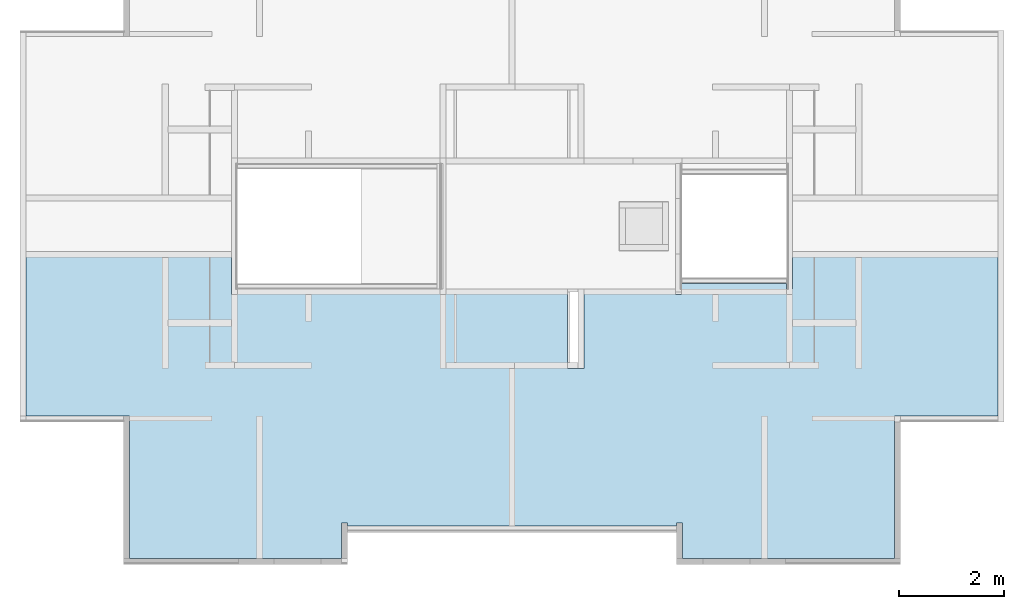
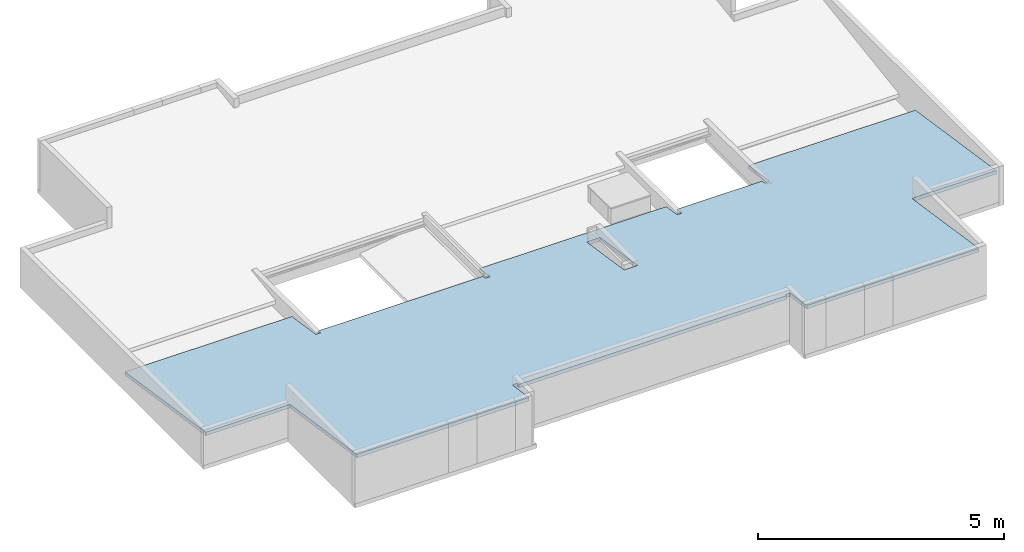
# One storey, part 7 of 9: 1 roof.
"""IFC4 building model written with IfcOpenShell, lengths in metres."""

import ifcopenshell
import ifcopenshell.guid

model = None  # the IFC model being written
_history = None  # IfcOwnerHistory: only IFC2X3 demands one
_inside = {}  # id of a spatial element -> (the spatial element, [elements in it])
_under = {}  # id of a project, library or spatial element -> (it, [spatial elements below it])
_declared = {}  # id of a project -> (the project, [libraries it declares])
_typed = {}  # id of a type object -> (the type object, [elements of that type])
_made_of = {}  # id of a material, layer set ... -> (it, [elements and type objects made of it])


def new_model(schema):
    """Start an empty IFC model of exactly this schema.

    Asked for "IFC4X3", IfcOpenShell would pick the latest addendum, in which some entities
    have other attributes; the version numbers below select the first issue.
    IFC2X3 requires an IfcOwnerHistory on every rooted entity: one is made here for all.
    """
    global model, _history
    if schema == "IFC4X3":
        model = ifcopenshell.file(schema_version=(4, 3, 0, 0))
    else:
        model = ifcopenshell.file(schema=schema)
    _inside.clear()
    _under.clear()
    _declared.clear()
    _typed.clear()
    _made_of.clear()
    _history = None
    if model.schema == "IFC2X3":
        org = make("IfcOrganization", Name="unknown")
        user = make(
            "IfcPersonAndOrganization",
            ThePerson=make("IfcPerson", FamilyName="unknown"),
            TheOrganization=org,
        )
        app = make(
            "IfcApplication",
            ApplicationDeveloper=org,
            Version="unknown",
            ApplicationFullName="unknown",
            ApplicationIdentifier="unknown",
        )
        _history = make(
            "IfcOwnerHistory",
            OwningUser=user,
            OwningApplication=app,
            ChangeAction="ADDED",
            CreationDate=0,
        )
    return model


def make(cls, **values):
    """One entity of the class cls with the attributes given. An attribute that is None is left unset."""
    return model.create_entity(
        cls, **{name: value for name, value in values.items() if value is not None}
    )


def entity(cls, *values):
    """Any entity or typed value of the class cls, its attributes in the order of the schema. None: left unset."""
    e = model.create_entity(cls)
    for i, value in enumerate(values):
        if value is not None:
            e[i] = value
    return e


def rooted(cls, **values):
    """An entity with a GlobalId (a new one), such as an element, a storey or a relation."""
    return make(cls, GlobalId=ifcopenshell.guid.new(), OwnerHistory=_history, **values)


def si_unit(unit_type, name, prefix=None):
    """IfcSIUnit, for example si_unit("LENGTHUNIT", "METRE", prefix="MILLI")."""
    return make("IfcSIUnit", UnitType=unit_type, Prefix=prefix, Name=name)


def converted_unit(unit_type, name, factor, base, dimensions=None, offset=None):
    """IfcConversionBasedUnit, such as the inch: factor (a typed value) times the base unit."""
    return make(
        "IfcConversionBasedUnit"
        if offset is None
        else "IfcConversionBasedUnitWithOffset",
        ConversionOffset=offset,
        Dimensions=None
        if dimensions is None
        else entity("IfcDimensionalExponents", *dimensions),
        UnitType=unit_type,
        Name=name,
        ConversionFactor=make(
            "IfcMeasureWithUnit", ValueComponent=factor, UnitComponent=base
        ),
    )


def derived_unit(unit_type, elements):
    """IfcDerivedUnit: a product of units, each with its exponent."""
    return make(
        "IfcDerivedUnit",
        Elements=[
            make("IfcDerivedUnitElement", Unit=unit, Exponent=power)
            for unit, power in elements
        ],
        UnitType=unit_type,
    )


def assignment(units):
    """IfcUnitAssignment: the units of a project."""
    return None if units is None else make("IfcUnitAssignment", Units=units)


def point(xyz):
    """IfcCartesianPoint."""
    return None if xyz is None else make("IfcCartesianPoint", Coordinates=xyz)


def direction(xyz):
    """IfcDirection."""
    return None if xyz is None else make("IfcDirection", DirectionRatios=xyz)


def frame(location, z_axis=None, x_axis=None):
    """IfcAxis2Placement3D, a coordinate frame: its origin and axes. An axis left out is left unset."""
    return make(
        "IfcAxis2Placement3D",
        Location=point(location),
        Axis=direction(z_axis),
        RefDirection=direction(x_axis),
    )


def origin():
    """The frame at (0, 0, 0) with its axes left unset."""
    return frame((0.0, 0.0, 0.0))


def place(relative_to, where):
    """IfcLocalPlacement: puts the frame where relative to a parent placement (None: the world)."""
    return make(
        "IfcLocalPlacement", PlacementRelTo=relative_to, RelativePlacement=where
    )


def context(
    kind, dimensions, precision=None, world=None, true_north=None, identifier=None
):
    """IfcGeometricRepresentationContext, for example the 3D "Model" context."""
    return make(
        "IfcGeometricRepresentationContext",
        ContextIdentifier=identifier,
        ContextType=kind,
        CoordinateSpaceDimension=dimensions,
        Precision=precision,
        WorldCoordinateSystem=world,
        TrueNorth=true_north,
    )


def subcontext(parent, identifier, kind, view, scale=None):
    """IfcGeometricRepresentationSubContext, for example "Body" below "Model"."""
    return make(
        "IfcGeometricRepresentationSubContext",
        ContextIdentifier=identifier,
        ContextType=kind,
        ParentContext=parent,
        TargetScale=scale,
        TargetView=view,
    )


def project(units=None, contexts=None):
    """IfcProject with its units and contexts."""
    return rooted(
        "IfcProject",
        Name="project",
        RepresentationContexts=contexts,
        UnitsInContext=assignment(units),
    )


def spatial(cls, under=None, at=None, **own):
    """A site, building, storey or space (cls), placed at a placement, below another one or the project."""
    s = rooted(cls, ObjectPlacement=at, **own)
    if under is not None:
        _under.setdefault(under.id(), (under, []))[1].append(s)
    return s


def point_list(points):
    """IfcCartesianPointList2D or 3D."""
    cls = (
        "IfcCartesianPointList2D" if len(points[0]) == 2 else "IfcCartesianPointList3D"
    )
    return make(cls, CoordList=points)


def polygons(points, faces, closed=None, point_numbers=None):
    """IfcPolygonalFaceSet: a face is its outer loop, then its inner loops; points numbered from 1."""
    made = []
    for loops in faces:
        if len(loops) == 1:
            made.append(make("IfcIndexedPolygonalFace", CoordIndex=loops[0]))
        else:
            made.append(
                make(
                    "IfcIndexedPolygonalFaceWithVoids",
                    CoordIndex=loops[0],
                    InnerCoordIndices=loops[1:],
                )
            )
    return make(
        "IfcPolygonalFaceSet",
        Coordinates=point_list(points),
        Closed=closed,
        Faces=made,
        PnIndex=point_numbers,
    )


def shape(context_of_items, identifier, shape_type, items):
    """IfcShapeRepresentation: the items that make up one representation, for example the "Body"."""
    return make(
        "IfcShapeRepresentation",
        ContextOfItems=context_of_items,
        RepresentationIdentifier=identifier,
        RepresentationType=shape_type,
        Items=items,
    )


def material(Name=None, Category=None):
    """IfcMaterial."""
    return make("IfcMaterial", Name=Name, Category=Category)


def made_of(thing, what):
    """Note that an element or type object is made of a material, layer set ...; save() writes the relation."""
    if what is not None:
        _made_of.setdefault(what.id(), (what, []))[1].append(thing)
    return thing


def type_object(cls, material=None, **own):
    """A type object (cls), such as IfcWallType, which elements share."""
    return made_of(rooted(cls, **own), material)


def element(
    cls,
    number,
    at=None,
    inside=None,
    cuts=None,
    type_object=None,
    material=None,
    context=None,
    identifier="Body",
    shape_type=None,
    held_by="IfcProductDefinitionShape",
    body=None,
    shapes=None,
    **own,
):
    """One element of the class cls, such as IfcWall. Its Tag is "e" and its number.

    at: its placement. inside: the storey or other place that contains it. cuts: it is an
    opening in that element (IfcRelVoidsElement). A single representation is given by context,
    identifier, shape_type and body (its items); several are given by shapes. held_by: the class
    of the entity that holds the representations. save() writes the other relations.
    """
    e = rooted(cls, Tag="e%d" % number, ObjectPlacement=at, **own)
    if body is not None:
        shapes = [shape(context, identifier, shape_type, body)]
    if shapes is not None:
        e.Representation = make(held_by, Representations=shapes)
    if inside is not None:
        _inside.setdefault(inside.id(), (inside, []))[1].append(e)
    if cuts is not None:
        rooted(
            "IfcRelVoidsElement", RelatingBuildingElement=cuts, RelatedOpeningElement=e
        )
    if type_object is not None:
        _typed.setdefault(type_object.id(), (type_object, []))[1].append(e)
    return made_of(e, material)


def aggregate(whole, parts):
    """IfcRelAggregates: a whole, such as a stair, and the parts it consists of."""
    return rooted("IfcRelAggregates", RelatingObject=whole, RelatedObjects=parts)


def save(model, path):
    """Write the relations noted so far, then the file.

    IfcRelAggregates (storeys below a building ...), IfcRelContainedInSpatialStructure (elements
    in a storey), IfcRelDefinesByType, IfcRelAssociatesMaterial and IfcRelDeclares: one each for
    every whole, place, type object, material and project.
    """
    for whole, parts in _under.values():
        aggregate(whole, parts)
    for where, things in _inside.values():
        rooted(
            "IfcRelContainedInSpatialStructure",
            RelatedElements=things,
            RelatingStructure=where,
        )
    for kind, things in _typed.values():
        rooted("IfcRelDefinesByType", RelatedObjects=things, RelatingType=kind)
    for what, things in _made_of.values():
        rooted("IfcRelAssociatesMaterial", RelatedObjects=things, RelatingMaterial=what)
    for by, libraries in _declared.values():
        rooted("IfcRelDeclares", RelatingContext=by, RelatedDefinitions=libraries)
    model.write(path)


model = new_model("IFC4")

# Units and contexts
model_context = context("Model", 3, precision=1e-05, world=origin(), true_north=direction((6.123031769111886e-17, 1.0)))
body_context = subcontext(model_context, "Body", "Model", "MODEL_VIEW")
ifc_project = project(units=[si_unit("LENGTHUNIT", "METRE"), si_unit("AREAUNIT", "SQUARE_METRE"), si_unit("VOLUMEUNIT", "CUBIC_METRE"), converted_unit("PLANEANGLEUNIT", "DEGREE", entity("IfcRatioMeasure", 0.017453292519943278), si_unit("PLANEANGLEUNIT", "RADIAN"), dimensions=[0, 0, 0, 0, 0, 0, 0]), si_unit("MASSUNIT", "GRAM", prefix="KILO"), derived_unit("MASSDENSITYUNIT", [(si_unit("MASSUNIT", "GRAM", prefix="KILO"), 1), (si_unit("LENGTHUNIT", "METRE"), -3)]), derived_unit("IONCONCENTRATIONUNIT", [(si_unit("MASSUNIT", "GRAM", prefix="KILO"), 1), (si_unit("LENGTHUNIT", "METRE"), -3)]), derived_unit("MOMENTOFINERTIAUNIT", [(si_unit("LENGTHUNIT", "METRE"), 4)]), si_unit("TIMEUNIT", "SECOND"), si_unit("FREQUENCYUNIT", "HERTZ"), si_unit("THERMODYNAMICTEMPERATUREUNIT", "DEGREE_CELSIUS"), derived_unit("THERMALTRANSMITTANCEUNIT", [(si_unit("MASSUNIT", "GRAM", prefix="KILO"), 1), (si_unit("THERMODYNAMICTEMPERATUREUNIT", "KELVIN"), -1), (si_unit("TIMEUNIT", "SECOND"), -3)]), derived_unit("THERMALCONDUCTANCEUNIT", [(si_unit("MASSUNIT", "GRAM", prefix="KILO"), 1), (si_unit("THERMODYNAMICTEMPERATUREUNIT", "KELVIN"), -1), (si_unit("TIMEUNIT", "SECOND"), -3), (si_unit("LENGTHUNIT", "METRE"), 1)]), derived_unit("VOLUMETRICFLOWRATEUNIT", [(si_unit("LENGTHUNIT", "METRE"), 3), (si_unit("TIMEUNIT", "SECOND"), -1)]), derived_unit("MASSFLOWRATEUNIT", [(si_unit("MASSUNIT", "GRAM", prefix="KILO"), 1), (si_unit("TIMEUNIT", "SECOND"), -1)]), derived_unit("ROTATIONALFREQUENCYUNIT", [(si_unit("TIMEUNIT", "SECOND"), -1)]), si_unit("ELECTRICCURRENTUNIT", "AMPERE"), si_unit("ELECTRICVOLTAGEUNIT", "VOLT"), si_unit("POWERUNIT", "WATT"), si_unit("FORCEUNIT", "NEWTON", prefix="KILO"), si_unit("ILLUMINANCEUNIT", "LUX"), si_unit("LUMINOUSFLUXUNIT", "LUMEN"), si_unit("LUMINOUSINTENSITYUNIT", "CANDELA"), derived_unit("USERDEFINED", [(si_unit("MASSUNIT", "GRAM", prefix="KILO"), -1), (si_unit("LENGTHUNIT", "METRE"), -2), (si_unit("TIMEUNIT", "SECOND"), 3), (si_unit("LUMINOUSFLUXUNIT", "LUMEN"), 1)]), derived_unit("USERDEFINED", [(si_unit("MASSUNIT", "GRAM", prefix="KILO"), 1), (si_unit("TIMEUNIT", "SECOND"), -3), (si_unit("LENGTHUNIT", "METRE"), 3), (si_unit("ELECTRICCURRENTUNIT", "AMPERE"), -2)]), derived_unit("SOUNDPOWERUNIT", [(si_unit("MASSUNIT", "GRAM", prefix="KILO"), 1), (si_unit("TIMEUNIT", "SECOND"), -3), (si_unit("LENGTHUNIT", "METRE"), 2)]), derived_unit("SOUNDPRESSUREUNIT", [(si_unit("MASSUNIT", "GRAM", prefix="KILO"), 1), (si_unit("LENGTHUNIT", "METRE"), -1), (si_unit("TIMEUNIT", "SECOND"), -2)]), derived_unit("LINEARVELOCITYUNIT", [(si_unit("LENGTHUNIT", "METRE"), 1), (si_unit("TIMEUNIT", "SECOND"), -1)]), si_unit("PRESSUREUNIT", "PASCAL"), derived_unit("USERDEFINED", [(si_unit("MASSUNIT", "GRAM", prefix="KILO"), 1), (si_unit("LENGTHUNIT", "METRE"), -2), (si_unit("TIMEUNIT", "SECOND"), -2)]), derived_unit("LINEARFORCEUNIT", [(si_unit("MASSUNIT", "GRAM", prefix="KILO"), 1), (si_unit("TIMEUNIT", "SECOND"), -2)]), derived_unit("PLANARFORCEUNIT", [(si_unit("MASSUNIT", "GRAM", prefix="KILO"), 1), (si_unit("LENGTHUNIT", "METRE"), -1), (si_unit("TIMEUNIT", "SECOND"), -2)]), derived_unit("SPECIFICHEATCAPACITYUNIT", [(si_unit("THERMODYNAMICTEMPERATUREUNIT", "KELVIN"), -1), (si_unit("LENGTHUNIT", "METRE"), 2), (si_unit("TIMEUNIT", "SECOND"), -2)]), derived_unit("HEATINGVALUEUNIT", [(si_unit("LENGTHUNIT", "METRE"), 2), (si_unit("TIMEUNIT", "SECOND"), -2)]), derived_unit("VAPORPERMEABILITYUNIT", [(si_unit("LENGTHUNIT", "METRE"), -1), (si_unit("TIMEUNIT", "SECOND"), 1)]), derived_unit("DYNAMICVISCOSITYUNIT", [(si_unit("MASSUNIT", "GRAM", prefix="KILO"), 1), (si_unit("TIMEUNIT", "SECOND"), -1), (si_unit("LENGTHUNIT", "METRE"), -1)]), derived_unit("THERMALEXPANSIONCOEFFICIENTUNIT", [(si_unit("THERMODYNAMICTEMPERATUREUNIT", "KELVIN"), -1)]), derived_unit("MODULUSOFELASTICITYUNIT", [(si_unit("MASSUNIT", "GRAM", prefix="KILO"), 1), (si_unit("LENGTHUNIT", "METRE"), -1), (si_unit("TIMEUNIT", "SECOND"), -2)]), derived_unit("ISOTHERMALMOISTURECAPACITYUNIT", [(si_unit("LENGTHUNIT", "METRE"), 3), (si_unit("MASSUNIT", "GRAM", prefix="KILO"), -1)]), derived_unit("MOISTUREDIFFUSIVITYUNIT", [(si_unit("TIMEUNIT", "SECOND"), -1), (si_unit("LENGTHUNIT", "METRE"), 2)])], contexts=[model_context])

# Site, building, storey
site_placement = place(None, origin())
site = spatial("IfcSite", under=ifc_project, at=site_placement, Name="Default", CompositionType="ELEMENT")
building_placement = place(site_placement, origin())
building = spatial("IfcBuilding", under=site, at=building_placement, CompositionType="ELEMENT")
storey_placement = place(building_placement, frame((0.0, 0.0, 14.10000000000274)))
storey = spatial("IfcBuildingStorey", under=building, at=storey_placement, Name="Nivel 7", CompositionType="ELEMENT", Elevation=14.10000000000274)

# Roof
ifc_material = material(Name="Fibrocemento", Category="Materials")
roof_type = type_object("IfcRoofType", Name="Basic Roof:B3010 - 0.0825 m - Teja Ondulada - Fibrocemento", PredefinedType="NOTDEFINED")
roof_placement = place(storey_placement, frame((0.05749999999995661, -12.755000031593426, 0.13532499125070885)))
element("IfcRoof", 1, at=roof_placement, inside=storey, type_object=roof_type, material=ifc_material, Name="Basic Roof:B3010 - 0.0825 m - Teja Ondulada - Fibrocemento", ObjectType="Basic Roof:B3010 - 0.0825 m - Teja Ondulada - Fibrocemento", PredefinedType="NOTDEFINED", context=body_context, shape_type="Tessellation", body=[
    polygons([(1.2630629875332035e-14, 2.7150000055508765, 0.4931250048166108), (3.9346992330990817e-14, 6.002500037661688, -2.1657342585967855e-15), (3.9149999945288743, 6.002500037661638, -2.1657342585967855e-15), (3.9149999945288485, 5.030000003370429, 0.14587500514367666), (4.029999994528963, 5.030000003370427, 0.14587500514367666), (4.029999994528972, 5.130000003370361, 0.13087500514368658), (7.890000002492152, 5.130000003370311, 0.13087500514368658), (7.890000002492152, 5.030000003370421, 0.145875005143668), (8.005000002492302, 5.03000000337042, 0.145875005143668), (8.00500000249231, 5.470000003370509, 0.07987500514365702), (12.385000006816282, 5.470000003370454, 0.07987500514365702), (12.385000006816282, 5.029500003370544, 0.14595000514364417), (12.500000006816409, 5.029500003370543, 0.14595000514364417), (12.50000000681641, 5.237999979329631, 0.11467500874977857), (14.499999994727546, 5.237999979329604, 0.11467500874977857), (14.499999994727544, 5.130500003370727, 0.13080000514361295), (14.615000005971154, 5.130500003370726, 0.13080000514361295), (14.615000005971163, 5.9950000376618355, 0.001124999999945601), (18.53000000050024, 5.995000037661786, 0.0011249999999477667), (18.530000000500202, 2.715000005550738, 0.4931250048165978), (16.554999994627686, 2.7150000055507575, 0.4931250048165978), (16.554999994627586, 1.8192167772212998e-13, 0.9003750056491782), (12.519999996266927, 3.248601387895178e-13, 0.9003750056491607), (12.519999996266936, 0.6749180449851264, 0.7991372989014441), (12.40500000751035, 0.6749180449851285, 0.7991372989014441), (12.40500000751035, 0.615000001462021, 0.8081250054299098), (6.124999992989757, 0.6150000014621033, 0.8081250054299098), (6.124999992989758, 0.6749180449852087, 0.7991372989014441), (6.009999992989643, 0.6749180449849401, 0.7991372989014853), (6.009999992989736, 1.2561258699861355e-13, 0.9003750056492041), (1.9749999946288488, 1.51601398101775e-13, 0.9003750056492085), (1.9749999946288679, 2.7150000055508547, 0.4931250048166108), (10.639999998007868, 3.6150000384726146, 0.35812499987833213), (10.639999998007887, 5.1300000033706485, 0.13087500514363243), (10.325000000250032, 5.130000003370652, 0.13087500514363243), (10.325000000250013, 3.615000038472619, 0.35812499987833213), (3.9346992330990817e-14, 6.002500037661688, 0.08847889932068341), (1.2630629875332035e-14, 2.7150000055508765, 0.5816039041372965), (1.9749999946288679, 2.7150000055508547, 0.5816039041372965), (1.9749999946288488, 1.51601398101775e-13, 0.9888539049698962), (6.009999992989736, 1.2561258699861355e-13, 0.9888539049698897), (6.009999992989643, 0.6749180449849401, 0.8876161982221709), (6.124999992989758, 0.6749180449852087, 0.8876161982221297), (6.124999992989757, 0.6150000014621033, 0.8966039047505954), (12.40500000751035, 0.615000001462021, 0.8966039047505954), (12.40500000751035, 0.6749180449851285, 0.8876161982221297), (12.519999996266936, 0.6749180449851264, 0.8876161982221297), (12.519999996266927, 3.248601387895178e-13, 0.9888539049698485), (16.554999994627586, 1.8192167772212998e-13, 0.9888539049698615), (16.554999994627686, 2.7150000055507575, 0.5816039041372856), (18.530000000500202, 2.715000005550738, 0.5816039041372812), (18.53000000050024, 5.995000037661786, 0.08960389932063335), (14.615000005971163, 5.9950000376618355, 0.08960389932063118), (14.615000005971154, 5.130500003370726, 0.21927890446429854), (14.499999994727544, 5.130500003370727, 0.21927890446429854), (14.499999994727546, 5.237999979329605, 0.20315390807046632), (12.50000000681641, 5.237999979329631, 0.20315390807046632), (12.500000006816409, 5.029500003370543, 0.2344289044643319), (12.385000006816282, 5.029500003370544, 0.2344289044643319), (12.385000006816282, 5.470000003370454, 0.1683539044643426), (8.00500000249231, 5.470000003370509, 0.1683539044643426), (8.005000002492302, 5.03000000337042, 0.23435390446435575), (7.890000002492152, 5.030000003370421, 0.23435390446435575), (7.890000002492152, 5.130000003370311, 0.21935390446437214), (4.029999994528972, 5.130000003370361, 0.21935390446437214), (4.029999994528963, 5.030000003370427, 0.23435390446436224), (3.9149999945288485, 5.030000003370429, 0.23435390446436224), (3.9149999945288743, 6.002500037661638, 0.08847889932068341), (10.639999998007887, 5.1300000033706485, 0.21935390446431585), (10.639999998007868, 3.6150000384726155, 0.44660389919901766), (10.325000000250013, 3.61500003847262, 0.44660389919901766), (10.325000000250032, 5.130000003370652, 0.21935390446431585)], [[[1, 2, 3, 4, 5, 6, 7, 8, 9, 10, 11, 12, 13, 14, 15, 16, 17, 18, 19, 20, 21, 22, 23, 24, 25, 26, 27, 28, 29, 30, 31, 32], [33, 34, 35, 36]], [[37, 38, 39, 40, 41, 42, 43, 44, 45, 46, 47, 48, 49, 50, 51, 52, 53, 54, 55, 56, 57, 58, 59, 60, 61, 62, 63, 64, 65, 66, 67, 68], [69, 70, 71, 72]], [[57, 56, 15, 14]], [[2, 1, 38, 37]], [[1, 32, 39, 38]], [[32, 31, 40, 39]], [[31, 30, 41, 40]], [[30, 29, 42, 41]], [[27, 26, 45, 44]], [[24, 23, 48, 47]], [[23, 22, 49, 48]], [[22, 21, 50, 49]], [[21, 20, 51, 50]], [[20, 19, 52, 51]], [[3, 2, 37, 68]], [[4, 3, 68, 67]], [[18, 17, 54, 53]], [[19, 18, 53, 52]], [[10, 9, 62, 61]], [[11, 10, 61, 60]], [[12, 11, 60, 59]], [[7, 6, 65, 64]], [[5, 4, 67, 66]], [[6, 5, 66, 65]], [[13, 12, 59, 58]], [[14, 13, 58, 57]], [[16, 15, 56, 55]], [[17, 16, 55, 54]], [[8, 7, 64, 63]], [[9, 8, 63, 62]], [[29, 28, 43, 42]], [[28, 27, 44, 43]], [[26, 25, 46, 45]], [[25, 24, 47, 46]], [[69, 34, 33, 70]], [[70, 33, 36, 71]], [[71, 36, 35, 72]], [[34, 69, 72, 35]]], closed=True),
])

save(model, "model.ifc")
